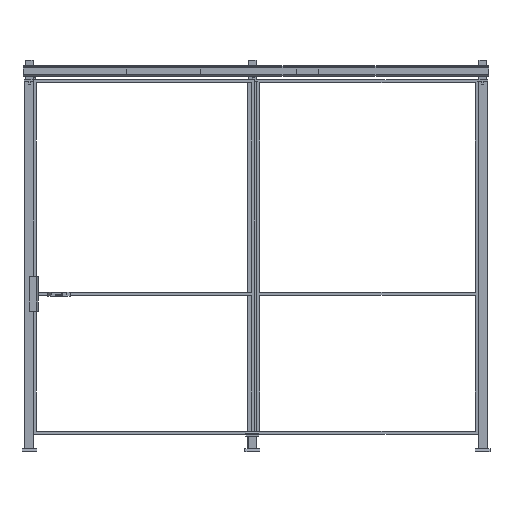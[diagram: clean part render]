
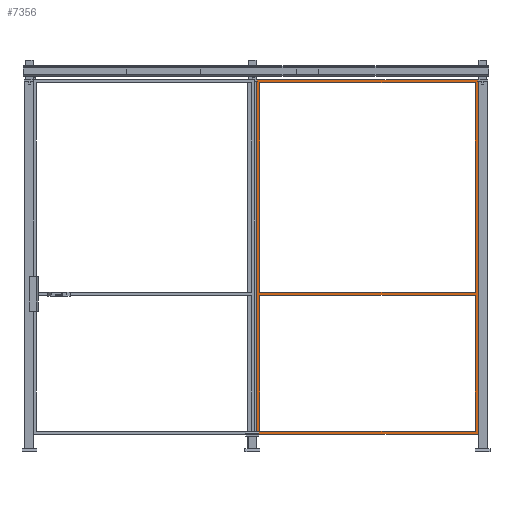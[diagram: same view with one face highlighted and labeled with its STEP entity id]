
A CAD part, front view. The second image highlights one B-rep face of the part: STEP entity #7356.
In plain terms, the highlighted planar face has unit normal (0, -1, 0).
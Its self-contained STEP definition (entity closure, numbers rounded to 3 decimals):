
#365=FACE_BOUND('',#1110,.T.);
#366=FACE_BOUND('',#1111,.T.);
#753=FACE_OUTER_BOUND('',#1109,.T.);
#1109=EDGE_LOOP('',(#5299,#5300,#5301,#5302));
#1110=EDGE_LOOP('',(#5303,#5304,#5305,#5306));
#1111=EDGE_LOOP('',(#5307,#5308,#5309,#5310));
#1546=LINE('',#10352,#2513);
#1552=LINE('',#10364,#2519);
#1553=LINE('',#10367,#2520);
#1556=LINE('',#10374,#2523);
#1557=LINE('',#10376,#2524);
#1558=LINE('',#10378,#2525);
#1559=LINE('',#10379,#2526);
#1560=LINE('',#10381,#2527);
#1561=LINE('',#10383,#2528);
#1562=LINE('',#10384,#2529);
#1563=LINE('',#10386,#2530);
#1564=LINE('',#10387,#2531);
#2513=VECTOR('',#8367,1.);
#2519=VECTOR('',#8375,1.);
#2520=VECTOR('',#8378,1.);
#2523=VECTOR('',#8383,1.);
#2524=VECTOR('',#8384,1.);
#2525=VECTOR('',#8385,1.);
#2526=VECTOR('',#8386,1.);
#2527=VECTOR('',#8387,1.);
#2528=VECTOR('',#8388,1.);
#2529=VECTOR('',#8389,1.);
#2530=VECTOR('',#8390,1.);
#2531=VECTOR('',#8391,1.);
#3451=VERTEX_POINT('',#10348);
#3453=VERTEX_POINT('',#10351);
#3456=VERTEX_POINT('',#10358);
#3458=VERTEX_POINT('',#10362);
#3459=VERTEX_POINT('',#10366);
#3461=VERTEX_POINT('',#10372);
#3462=VERTEX_POINT('',#10373);
#3463=VERTEX_POINT('',#10375);
#3464=VERTEX_POINT('',#10377);
#3465=VERTEX_POINT('',#10380);
#3466=VERTEX_POINT('',#10382);
#3467=VERTEX_POINT('',#10385);
#4192=EDGE_CURVE('',#3451,#3453,#1546,.T.);
#4198=EDGE_CURVE('',#3458,#3456,#1552,.T.);
#4199=EDGE_CURVE('',#3459,#3456,#1553,.T.);
#4202=EDGE_CURVE('',#3461,#3462,#1556,.T.);
#4203=EDGE_CURVE('',#3463,#3462,#1557,.T.);
#4204=EDGE_CURVE('',#3464,#3463,#1558,.T.);
#4205=EDGE_CURVE('',#3461,#3464,#1559,.T.);
#4206=EDGE_CURVE('',#3451,#3465,#1560,.T.);
#4207=EDGE_CURVE('',#3465,#3466,#1561,.T.);
#4208=EDGE_CURVE('',#3466,#3453,#1562,.T.);
#4209=EDGE_CURVE('',#3458,#3467,#1563,.T.);
#4210=EDGE_CURVE('',#3467,#3459,#1564,.T.);
#5299=ORIENTED_EDGE('',*,*,#4202,.T.);
#5300=ORIENTED_EDGE('',*,*,#4203,.F.);
#5301=ORIENTED_EDGE('',*,*,#4204,.F.);
#5302=ORIENTED_EDGE('',*,*,#4205,.F.);
#5303=ORIENTED_EDGE('',*,*,#4206,.T.);
#5304=ORIENTED_EDGE('',*,*,#4207,.T.);
#5305=ORIENTED_EDGE('',*,*,#4208,.T.);
#5306=ORIENTED_EDGE('',*,*,#4192,.F.);
#5307=ORIENTED_EDGE('',*,*,#4198,.F.);
#5308=ORIENTED_EDGE('',*,*,#4209,.T.);
#5309=ORIENTED_EDGE('',*,*,#4210,.T.);
#5310=ORIENTED_EDGE('',*,*,#4199,.T.);
#7032=PLANE('',#7739);
#7356=ADVANCED_FACE('',(#753,#365,#366),#7032,.F.);
#7739=AXIS2_PLACEMENT_3D('',#10371,#8381,#8382);
#8367=DIRECTION('',(1.,0.,0.));
#8375=DIRECTION('',(-1.,0.,0.));
#8378=DIRECTION('',(0.,0.,1.));
#8381=DIRECTION('center_axis',(0.,1.,0.));
#8382=DIRECTION('ref_axis',(0.,0.,1.));
#8383=DIRECTION('',(0.,0.,-1.));
#8384=DIRECTION('',(-1.,0.,0.));
#8385=DIRECTION('',(0.,0.,-1.));
#8386=DIRECTION('',(1.,0.,0.));
#8387=DIRECTION('',(0.,0.,1.));
#8388=DIRECTION('',(1.,0.,0.));
#8389=DIRECTION('',(0.,0.,-1.));
#8390=DIRECTION('',(0.,0.,-1.));
#8391=DIRECTION('',(-1.,0.,0.));
#10348=CARTESIAN_POINT('',(20.,0.,960.));
#10351=CARTESIAN_POINT('',(1480.,0.,960.));
#10352=CARTESIAN_POINT('',(750.,0.,960.));
#10358=CARTESIAN_POINT('',(20.,0.,940.));
#10362=CARTESIAN_POINT('',(1480.,0.,940.));
#10364=CARTESIAN_POINT('',(750.,0.,940.));
#10366=CARTESIAN_POINT('',(20.,0.,20.));
#10367=CARTESIAN_POINT('',(20.,0.,1200.));
#10371=CARTESIAN_POINT('Origin',(750.,0.,1200.));
#10372=CARTESIAN_POINT('',(0.,0.,2400.));
#10373=CARTESIAN_POINT('',(0.,0.,0.));
#10374=CARTESIAN_POINT('',(0.,0.,1200.));
#10375=CARTESIAN_POINT('',(1500.,0.,0.));
#10376=CARTESIAN_POINT('',(750.,0.,0.));
#10377=CARTESIAN_POINT('',(1500.,0.,2400.));
#10378=CARTESIAN_POINT('',(1500.,0.,1200.));
#10379=CARTESIAN_POINT('',(750.,0.,2400.));
#10380=CARTESIAN_POINT('',(20.,0.,2380.));
#10381=CARTESIAN_POINT('',(20.,0.,1200.));
#10382=CARTESIAN_POINT('',(1480.,0.,2380.));
#10383=CARTESIAN_POINT('',(750.,0.,2380.));
#10384=CARTESIAN_POINT('',(1480.,0.,1200.));
#10385=CARTESIAN_POINT('',(1480.,0.,20.));
#10386=CARTESIAN_POINT('',(1480.,0.,1200.));
#10387=CARTESIAN_POINT('',(750.,0.,20.));
